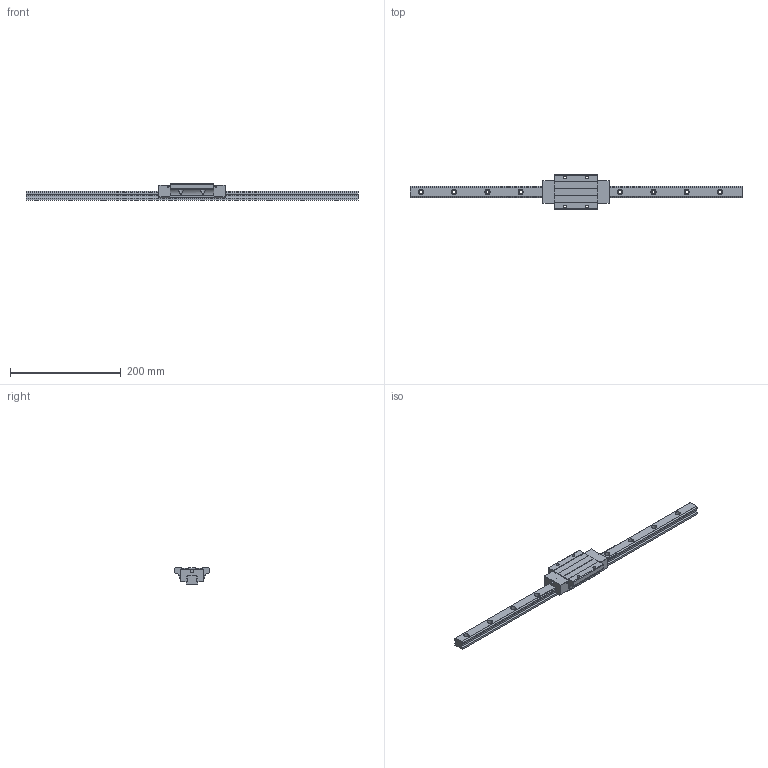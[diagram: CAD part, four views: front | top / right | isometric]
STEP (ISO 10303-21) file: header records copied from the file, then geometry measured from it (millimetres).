
FILE_DESCRIPTION (( 'STEP AP203' ), '1' );
FILE_NAME ('TRH20FE-WZ.STEP', '2024-05-08T07:17:52', ( '' ), ( '' ), 'SwSTEP 2.0', 'SolidWorks 2022', '' );
FILE_SCHEMA (( 'CONFIG_CONTROL_DESIGN' ));
Length unit declared in the file: millimetre
Products named in the file (1): TRH20FE-WZ
Bounding box: 600 x 63 x 30 mm (x, y, z)
Volume: 279613.7 mm3; surface area: 74267.4 mm2
Topology: 2 solids, 2 shells, 222 faces, 598 edges, 392 vertices
Faces by surface type: cylinder 126, plane 92, sphere 4
Entity records: 7729 total; most frequent: CARTESIAN_POINT 1871, DIRECTION 1242, ORIENTED_EDGE 1188, EDGE_CURVE 594, AXIS2_PLACEMENT_3D 451, VERTEX_POINT 392, LINE 340, VECTOR 340
